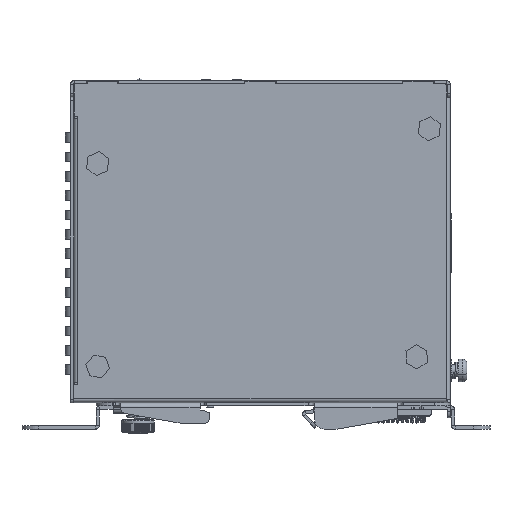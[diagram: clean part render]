
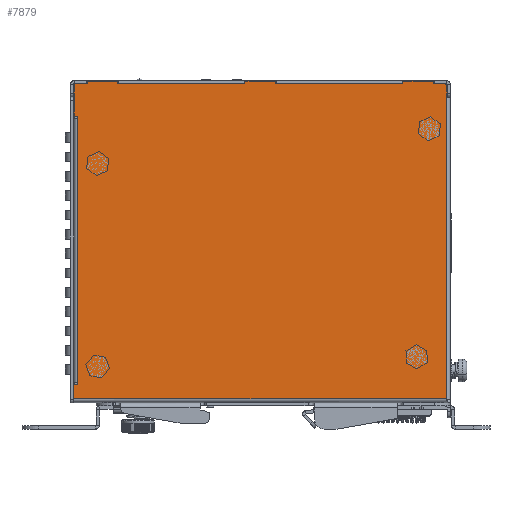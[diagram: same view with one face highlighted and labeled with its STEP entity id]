
A CAD part, left-side view. The second image highlights one B-rep face of the part: STEP entity #7879.
In plain terms, the highlighted planar face has unit normal (-1, 0, 0).
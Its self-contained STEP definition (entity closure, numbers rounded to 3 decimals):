
#120=DIRECTION('',(0.,-1.,0.));
#121=VECTOR('',#120,39.4);
#122=CARTESIAN_POINT('',(-1.,-4.8,0.));
#123=LINE('',#122,#121);
#124=DIRECTION('',(0.,0.,-1.));
#125=VECTOR('',#124,0.8);
#126=CARTESIAN_POINT('',(-1.,-44.2,0.8));
#127=LINE('',#126,#125);
#128=DIRECTION('',(0.,1.,0.));
#129=VECTOR('',#128,9.6);
#130=CARTESIAN_POINT('',(-1.,-53.8,0.8));
#131=LINE('',#130,#129);
#132=DIRECTION('',(0.,0.,1.));
#133=VECTOR('',#132,0.8);
#134=CARTESIAN_POINT('',(-1.,-53.8,0.));
#135=LINE('',#134,#133);
#136=DIRECTION('',(0.,-1.,0.));
#137=VECTOR('',#136,3.5);
#138=CARTESIAN_POINT('',(-1.,-53.8,0.));
#139=LINE('',#138,#137);
#140=CARTESIAN_POINT('',(-1.,-57.3,-0.5));
#141=DIRECTION('',(-1.,0.,0.));
#142=DIRECTION('',(0.,-1.,0.));
#143=AXIS2_PLACEMENT_3D('',#140,#141,#142);
#145=DIRECTION('',(0.,0.,-1.));
#146=VECTOR('',#145,3.7);
#147=CARTESIAN_POINT('',(-1.,-57.8,-0.5));
#148=LINE('',#147,#146);
#149=CARTESIAN_POINT('',(-1.,57.5,-93.8));
#150=DIRECTION('',(-1.,0.,0.));
#151=DIRECTION('',(0.,0.,1.));
#152=AXIS2_PLACEMENT_3D('',#149,#150,#151);
#154=DIRECTION('',(0.,-1.,0.));
#155=VECTOR('',#154,0.45);
#156=CARTESIAN_POINT('',(-1.,57.5,-93.3));
#157=LINE('',#156,#155);
#158=CARTESIAN_POINT('',(-1.,57.05,-93.05));
#159=DIRECTION('',(-1.,0.,0.));
#160=DIRECTION('',(0.,0.,-1.));
#161=AXIS2_PLACEMENT_3D('',#158,#159,#160);
#163=DIRECTION('',(0.,0.,-1.));
#164=VECTOR('',#163,0.25);
#165=CARTESIAN_POINT('',(-1.,56.8,-92.8));
#166=LINE('',#165,#164);
#167=DIRECTION('',(0.,0.,-1.));
#168=VECTOR('',#167,0.25);
#169=CARTESIAN_POINT('',(-1.,56.8,-10.45));
#170=LINE('',#169,#168);
#171=CARTESIAN_POINT('',(-1.,57.05,-10.45));
#172=DIRECTION('',(1.,0.,0.));
#173=DIRECTION('',(0.,0.,1.));
#174=AXIS2_PLACEMENT_3D('',#171,#172,#173);
#176=DIRECTION('',(0.,-1.,0.));
#177=VECTOR('',#176,0.25);
#178=CARTESIAN_POINT('',(-1.,57.3,-10.2));
#179=LINE('',#178,#177);
#180=CARTESIAN_POINT('',(-1.,57.3,-9.7));
#181=DIRECTION('',(-1.,0.,0.));
#182=DIRECTION('',(0.,1.,0.));
#183=AXIS2_PLACEMENT_3D('',#180,#181,#182);
#185=DIRECTION('',(0.,0.,1.));
#186=VECTOR('',#185,5.5);
#187=CARTESIAN_POINT('',(-1.,57.8,-9.7));
#188=LINE('',#187,#186);
#189=DIRECTION('',(0.,0.,1.));
#190=VECTOR('',#189,3.7);
#191=CARTESIAN_POINT('',(-1.,57.8,-4.2));
#192=LINE('',#191,#190);
#193=CARTESIAN_POINT('',(-1.,57.3,-0.5));
#194=DIRECTION('',(-1.,0.,0.));
#195=DIRECTION('',(0.,0.,1.));
#196=AXIS2_PLACEMENT_3D('',#193,#194,#195);
#198=DIRECTION('',(0.,-1.,0.));
#199=VECTOR('',#198,3.5);
#200=CARTESIAN_POINT('',(-1.,57.3,0.));
#201=LINE('',#200,#199);
#202=DIRECTION('',(0.,0.,-1.));
#203=VECTOR('',#202,0.8);
#204=CARTESIAN_POINT('',(-1.,53.8,0.8));
#205=LINE('',#204,#203);
#206=DIRECTION('',(0.,1.,0.));
#207=VECTOR('',#206,9.6);
#208=CARTESIAN_POINT('',(-1.,44.2,0.8));
#209=LINE('',#208,#207);
#210=DIRECTION('',(0.,0.,1.));
#211=VECTOR('',#210,0.8);
#212=CARTESIAN_POINT('',(-1.,44.2,0.));
#213=LINE('',#212,#211);
#214=DIRECTION('',(0.,-1.,0.));
#215=VECTOR('',#214,39.4);
#216=CARTESIAN_POINT('',(-1.,44.2,0.));
#217=LINE('',#216,#215);
#218=DIRECTION('',(0.,0.,-1.));
#219=VECTOR('',#218,0.8);
#220=CARTESIAN_POINT('',(-1.,4.8,0.8));
#221=LINE('',#220,#219);
#222=DIRECTION('',(0.,1.,0.));
#223=VECTOR('',#222,9.6);
#224=CARTESIAN_POINT('',(-1.,-4.8,0.8));
#225=LINE('',#224,#223);
#226=DIRECTION('',(0.,0.,1.));
#227=VECTOR('',#226,0.8);
#228=CARTESIAN_POINT('',(-1.,-4.8,0.));
#229=LINE('',#228,#227);
#294=DIRECTION('',(0.,0.,1.));
#295=VECTOR('',#294,82.1);
#296=CARTESIAN_POINT('',(-1.,56.8,-92.8));
#297=LINE('',#296,#295);
#358=DIRECTION('',(0.,0.,-1.));
#359=VECTOR('',#358,4.);
#360=CARTESIAN_POINT('',(-1.,58.,-93.8));
#361=LINE('',#360,#359);
#396=DIRECTION('',(0.,1.,0.));
#397=VECTOR('',#396,115.8);
#398=CARTESIAN_POINT('',(-1.,-57.8,-97.8));
#399=LINE('',#398,#397);
#3955=DIRECTION('',(0.,0.,-1.));
#3956=VECTOR('',#3955,93.6);
#3957=CARTESIAN_POINT('',(-1.,-57.8,-4.2));
#3958=LINE('',#3957,#3956);
#5926=CARTESIAN_POINT('',(-1.,58.,-97.8));
#5928=VERTEX_POINT('',#5926);
#5929=CARTESIAN_POINT('',(-1.,-57.8,-97.8));
#5930=VERTEX_POINT('',#5929);
#5943=CARTESIAN_POINT('',(-1.,-57.8,-4.2));
#5944=VERTEX_POINT('',#5943);
#5973=CARTESIAN_POINT('',(-1.,57.3,0.));
#5975=VERTEX_POINT('',#5973);
#5981=CARTESIAN_POINT('',(-1.,-57.8,-0.5));
#5982=VERTEX_POINT('',#5981);
#5983=CARTESIAN_POINT('',(-1.,-57.3,0.));
#5984=VERTEX_POINT('',#5983);
#6269=CARTESIAN_POINT('',(-1.,57.05,-10.2));
#6271=VERTEX_POINT('',#6269);
#6275=CARTESIAN_POINT('',(-1.,56.8,-10.45));
#6276=VERTEX_POINT('',#6275);
#6279=CARTESIAN_POINT('',(-1.,56.8,-10.7));
#6280=VERTEX_POINT('',#6279);
#6284=CARTESIAN_POINT('',(-1.,57.05,-93.3));
#6286=VERTEX_POINT('',#6284);
#6287=CARTESIAN_POINT('',(-1.,56.8,-92.8));
#6288=VERTEX_POINT('',#6287);
#6293=CARTESIAN_POINT('',(-1.,56.8,-93.05));
#6294=VERTEX_POINT('',#6293);
#6301=CARTESIAN_POINT('',(-1.,57.8,-4.2));
#6302=CARTESIAN_POINT('',(-1.,57.8,-0.5));
#6303=VERTEX_POINT('',#6301);
#6304=VERTEX_POINT('',#6302);
#6309=CARTESIAN_POINT('',(-1.,57.8,-9.7));
#6310=VERTEX_POINT('',#6309);
#6311=CARTESIAN_POINT('',(-1.,57.3,-10.2));
#6312=VERTEX_POINT('',#6311);
#6317=CARTESIAN_POINT('',(-1.,57.5,-93.3));
#6318=VERTEX_POINT('',#6317);
#6319=CARTESIAN_POINT('',(-1.,58.,-93.8));
#6320=VERTEX_POINT('',#6319);
#7650=CARTESIAN_POINT('',(-1.,44.2,0.));
#7651=CARTESIAN_POINT('',(-1.,44.2,0.8));
#7652=VERTEX_POINT('',#7650);
#7653=VERTEX_POINT('',#7651);
#7654=CARTESIAN_POINT('',(-1.,53.8,0.8));
#7655=VERTEX_POINT('',#7654);
#7656=CARTESIAN_POINT('',(-1.,53.8,0.));
#7657=VERTEX_POINT('',#7656);
#7666=CARTESIAN_POINT('',(-1.,-4.8,0.));
#7667=CARTESIAN_POINT('',(-1.,-4.8,0.8));
#7668=VERTEX_POINT('',#7666);
#7669=VERTEX_POINT('',#7667);
#7670=CARTESIAN_POINT('',(-1.,4.8,0.8));
#7671=VERTEX_POINT('',#7670);
#7672=CARTESIAN_POINT('',(-1.,4.8,0.));
#7673=VERTEX_POINT('',#7672);
#7682=CARTESIAN_POINT('',(-1.,-53.8,0.));
#7683=CARTESIAN_POINT('',(-1.,-53.8,0.8));
#7684=VERTEX_POINT('',#7682);
#7685=VERTEX_POINT('',#7683);
#7686=CARTESIAN_POINT('',(-1.,-44.2,0.8));
#7687=VERTEX_POINT('',#7686);
#7688=CARTESIAN_POINT('',(-1.,-44.2,0.));
#7689=VERTEX_POINT('',#7688);
#7813=CARTESIAN_POINT('',(-1.,0.,0.));
#7814=DIRECTION('',(1.,0.,0.));
#7815=DIRECTION('',(0.,-1.,0.));
#7816=AXIS2_PLACEMENT_3D('',#7813,#7814,#7815);
#7817=PLANE('',#7816);
#7819=ORIENTED_EDGE('',*,*,#7818,.T.);
#7821=ORIENTED_EDGE('',*,*,#7820,.F.);
#7823=ORIENTED_EDGE('',*,*,#7822,.F.);
#7825=ORIENTED_EDGE('',*,*,#7824,.F.);
#7826=ORIENTED_EDGE('',*,*,#7803,.T.);
#7828=ORIENTED_EDGE('',*,*,#7827,.F.);
#7830=ORIENTED_EDGE('',*,*,#7829,.T.);
#7832=ORIENTED_EDGE('',*,*,#7831,.T.);
#7834=ORIENTED_EDGE('',*,*,#7833,.T.);
#7836=ORIENTED_EDGE('',*,*,#7835,.F.);
#7838=ORIENTED_EDGE('',*,*,#7837,.F.);
#7840=ORIENTED_EDGE('',*,*,#7839,.T.);
#7842=ORIENTED_EDGE('',*,*,#7841,.T.);
#7844=ORIENTED_EDGE('',*,*,#7843,.F.);
#7846=ORIENTED_EDGE('',*,*,#7845,.T.);
#7848=ORIENTED_EDGE('',*,*,#7847,.F.);
#7850=ORIENTED_EDGE('',*,*,#7849,.F.);
#7852=ORIENTED_EDGE('',*,*,#7851,.F.);
#7854=ORIENTED_EDGE('',*,*,#7853,.F.);
#7856=ORIENTED_EDGE('',*,*,#7855,.T.);
#7858=ORIENTED_EDGE('',*,*,#7857,.T.);
#7860=ORIENTED_EDGE('',*,*,#7859,.F.);
#7862=ORIENTED_EDGE('',*,*,#7861,.T.);
#7864=ORIENTED_EDGE('',*,*,#7863,.F.);
#7866=ORIENTED_EDGE('',*,*,#7865,.F.);
#7868=ORIENTED_EDGE('',*,*,#7867,.F.);
#7870=ORIENTED_EDGE('',*,*,#7869,.T.);
#7872=ORIENTED_EDGE('',*,*,#7871,.F.);
#7874=ORIENTED_EDGE('',*,*,#7873,.F.);
#7876=ORIENTED_EDGE('',*,*,#7875,.F.);
#7877=EDGE_LOOP('',(#7819,#7821,#7823,#7825,#7826,#7828,#7830,#7832,#7834,#7836,
#7838,#7840,#7842,#7844,#7846,#7848,#7850,#7852,#7854,#7856,#7858,#7860,#7862,
#7864,#7866,#7868,#7870,#7872,#7874,#7876));
#7878=FACE_OUTER_BOUND('',#7877,.F.);
#144=CIRCLE('',#143,0.5);
#153=CIRCLE('',#152,0.5);
#162=CIRCLE('',#161,0.25);
#175=CIRCLE('',#174,0.25);
#184=CIRCLE('',#183,0.5);
#197=CIRCLE('',#196,0.5);
#7803=EDGE_CURVE('',#7684,#5984,#139,.T.);
#7818=EDGE_CURVE('',#7668,#7689,#123,.T.);
#7820=EDGE_CURVE('',#7687,#7689,#127,.T.);
#7822=EDGE_CURVE('',#7685,#7687,#131,.T.);
#7824=EDGE_CURVE('',#7684,#7685,#135,.T.);
#7827=EDGE_CURVE('',#5982,#5984,#144,.T.);
#7829=EDGE_CURVE('',#5982,#5944,#148,.T.);
#7831=EDGE_CURVE('',#5944,#5930,#3958,.T.);
#7833=EDGE_CURVE('',#5930,#5928,#399,.T.);
#7835=EDGE_CURVE('',#6320,#5928,#361,.T.);
#7837=EDGE_CURVE('',#6318,#6320,#153,.T.);
#7839=EDGE_CURVE('',#6318,#6286,#157,.T.);
#7841=EDGE_CURVE('',#6286,#6294,#162,.T.);
#7843=EDGE_CURVE('',#6288,#6294,#166,.T.);
#7845=EDGE_CURVE('',#6288,#6280,#297,.T.);
#7847=EDGE_CURVE('',#6276,#6280,#170,.T.);
#7849=EDGE_CURVE('',#6271,#6276,#175,.T.);
#7851=EDGE_CURVE('',#6312,#6271,#179,.T.);
#7853=EDGE_CURVE('',#6310,#6312,#184,.T.);
#7855=EDGE_CURVE('',#6310,#6303,#188,.T.);
#7857=EDGE_CURVE('',#6303,#6304,#192,.T.);
#7859=EDGE_CURVE('',#5975,#6304,#197,.T.);
#7861=EDGE_CURVE('',#5975,#7657,#201,.T.);
#7863=EDGE_CURVE('',#7655,#7657,#205,.T.);
#7865=EDGE_CURVE('',#7653,#7655,#209,.T.);
#7867=EDGE_CURVE('',#7652,#7653,#213,.T.);
#7869=EDGE_CURVE('',#7652,#7673,#217,.T.);
#7871=EDGE_CURVE('',#7671,#7673,#221,.T.);
#7873=EDGE_CURVE('',#7669,#7671,#225,.T.);
#7875=EDGE_CURVE('',#7668,#7669,#229,.T.);
#7879=ADVANCED_FACE('',(#7878),#7817,.F.);
